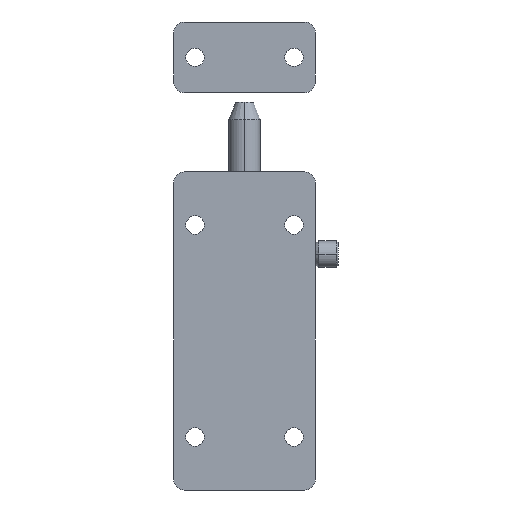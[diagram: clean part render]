
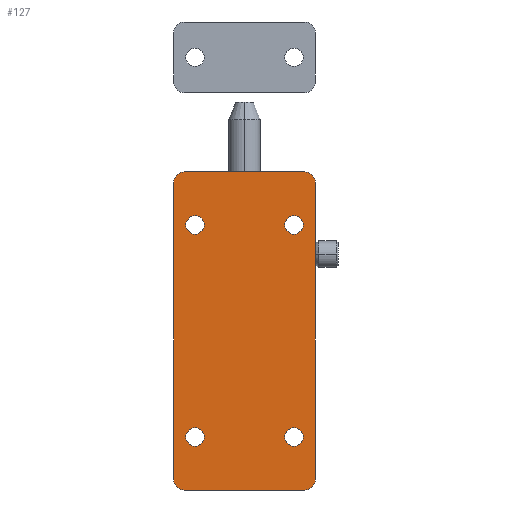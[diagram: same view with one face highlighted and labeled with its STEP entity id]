
A CAD part, front view. The second image highlights one B-rep face of the part: STEP entity #127.
In plain terms, the highlighted planar face has unit normal (0, -1, 0).
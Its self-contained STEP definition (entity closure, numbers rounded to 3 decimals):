
#27 = EDGE_LOOP ( 'NONE', ( #2912, #1894 ) ) ;
#40 = ORIENTED_EDGE ( 'NONE', *, *, #3098, .T. ) ;
#69 = VERTEX_POINT ( 'NONE', #1159 ) ;
#71 = EDGE_CURVE ( 'NONE', #3201, #3212, #1194, .T. ) ;
#87 = ORIENTED_EDGE ( 'NONE', *, *, #71, .T. ) ;
#113 = EDGE_CURVE ( 'NONE', #190, #2528, #1765, .T. ) ;
#114 = EDGE_LOOP ( 'NONE', ( #87, #40 ) ) ;
#127 = ADVANCED_FACE ( 'NONE', ( #1951, #1952, #1953, #1954, #1955 ), #1956, .F. ) ;
#141 = VERTEX_POINT ( 'NONE', #2055 ) ;
#157 = ORIENTED_EDGE ( 'NONE', *, *, #113, .F. ) ;
#171 = VERTEX_POINT ( 'NONE', #2153 ) ;
#174 = EDGE_CURVE ( 'NONE', #141, #3123, #2157, .T. ) ;
#190 = VERTEX_POINT ( 'NONE', #2211 ) ;
#194 = VERTEX_POINT ( 'NONE', #2222 ) ;
#215 = ORIENTED_EDGE ( 'NONE', *, *, #1875, .F. ) ;
#224 = EDGE_CURVE ( 'NONE', #194, #171, #2364, .T. ) ;
#246 = VERTEX_POINT ( 'NONE', #2441 ) ;
#258 = EDGE_CURVE ( 'NONE', #356, #1641, #2480, .T. ) ;
#270 = VERTEX_POINT ( 'NONE', #2514 ) ;
#282 = ORIENTED_EDGE ( 'NONE', *, *, #360, .F. ) ;
#294 = EDGE_CURVE ( 'NONE', #270, #246, #2586, .T. ) ;
#336 = ORIENTED_EDGE ( 'NONE', *, *, #3117, .F. ) ;
#356 = VERTEX_POINT ( 'NONE', #1700 ) ;
#360 = EDGE_CURVE ( 'NONE', #69, #574, #1721, .T. ) ;
#396 = EDGE_LOOP ( 'NONE', ( #336, #282, #215, #157, #3200, #3165, #3136, #3107 ) ) ;
#430 = ORIENTED_EDGE ( 'NONE', *, *, #1176, .T. ) ;
#487 = EDGE_CURVE ( 'NONE', #744, #956, #960, .T. ) ;
#523 = ORIENTED_EDGE ( 'NONE', *, *, #487, .T. ) ;
#574 = VERTEX_POINT ( 'NONE', #1360 ) ;
#579 = EDGE_LOOP ( 'NONE', ( #523, #430 ) ) ;
#610 = ORIENTED_EDGE ( 'NONE', *, *, #224, .T. ) ;
#744 = VERTEX_POINT ( 'NONE', #2018 ) ;
#756 = CIRCLE ( 'NONE', #757, 2.6 ) ;
#757 = AXIS2_PLACEMENT_3D ( 'NONE', #758, #759, #760 ) ;
#758 = CARTESIAN_POINT ( 'NONE',  ( 14., -5.7, 30. ) ) ;
#759 = DIRECTION ( 'NONE',  ( 0., 1., 0. ) ) ;
#760 = DIRECTION ( 'NONE',  ( 0., 0., 1. ) ) ;
#765 = EDGE_CURVE ( 'NONE', #171, #194, #2029, .T. ) ;
#783 = EDGE_CURVE ( 'NONE', #1641, #190, #2036, .T. ) ;
#873 = CIRCLE ( 'NONE', #874, 3. ) ;
#874 = AXIS2_PLACEMENT_3D ( 'NONE', #875, #876, #877 ) ;
#875 = CARTESIAN_POINT ( 'NONE',  ( 17., -5.7, -42. ) ) ;
#876 = DIRECTION ( 'NONE',  ( 0., 1., 0. ) ) ;
#877 = DIRECTION ( 'NONE',  ( 0., 0., 1. ) ) ;
#926 = CARTESIAN_POINT ( 'NONE',  ( -17., -5.7, -45. ) ) ;
#956 = VERTEX_POINT ( 'NONE', #2085 ) ;
#960 = CIRCLE ( 'NONE', #961, 2.6 ) ;
#961 = AXIS2_PLACEMENT_3D ( 'NONE', #962, #963, #964 ) ;
#962 = CARTESIAN_POINT ( 'NONE',  ( -14., -5.7, 30. ) ) ;
#963 = DIRECTION ( 'NONE',  ( 0., 1., 0. ) ) ;
#964 = DIRECTION ( 'NONE',  ( 0., 0., 1. ) ) ;
#1125 = ORIENTED_EDGE ( 'NONE', *, *, #765, .T. ) ;
#1159 = CARTESIAN_POINT ( 'NONE',  ( 20., -5.7, 42. ) ) ;
#1176 = EDGE_CURVE ( 'NONE', #956, #744, #2165, .T. ) ;
#1194 = CIRCLE ( 'NONE', #1195, 2.6 ) ;
#1195 = AXIS2_PLACEMENT_3D ( 'NONE', #1196, #1197, #1198 ) ;
#1196 = CARTESIAN_POINT ( 'NONE',  ( 14., -5.7, 30. ) ) ;
#1197 = DIRECTION ( 'NONE',  ( 0., 1., 0. ) ) ;
#1198 = DIRECTION ( 'NONE',  ( 0., 0., 1. ) ) ;
#1360 = CARTESIAN_POINT ( 'NONE',  ( 20., -5.7, -42. ) ) ;
#1577 = CARTESIAN_POINT ( 'NONE',  ( 17., -5.7, 45. ) ) ;
#1587 = CIRCLE ( 'NONE', #1588, 2.6 ) ;
#1588 = AXIS2_PLACEMENT_3D ( 'NONE', #1589, #1590, #1591 ) ;
#1589 = CARTESIAN_POINT ( 'NONE',  ( 14., -5.7, -30. ) ) ;
#1590 = DIRECTION ( 'NONE',  ( 0., 1., 0. ) ) ;
#1591 = DIRECTION ( 'NONE',  ( 0., 0., 1. ) ) ;
#1624 = EDGE_LOOP ( 'NONE', ( #1125, #610 ) ) ;
#1641 = VERTEX_POINT ( 'NONE', #2408 ) ;
#1700 = CARTESIAN_POINT ( 'NONE',  ( -20., -5.7, -42. ) ) ;
#1721 = LINE ( 'NONE', #1722, #1723 ) ;
#1722 = CARTESIAN_POINT ( 'NONE',  ( 20., -5.7, 0. ) ) ;
#1723 = VECTOR ( 'NONE', #1724, 1000. ) ;
#1724 = DIRECTION ( 'NONE',  ( 0., 0., -1. ) ) ;
#1765 = LINE ( 'NONE', #1766, #1767 ) ;
#1766 = CARTESIAN_POINT ( 'NONE',  ( 0., -5.7, 45. ) ) ;
#1767 = VECTOR ( 'NONE', #1768, 1000. ) ;
#1768 = DIRECTION ( 'NONE',  ( 1., 0., 0. ) ) ;
#1829 = CARTESIAN_POINT ( 'NONE',  ( 14., -5.7, 32.6 ) ) ;
#1851 = CIRCLE ( 'NONE', #1852, 3. ) ;
#1852 = AXIS2_PLACEMENT_3D ( 'NONE', #1853, #1854, #1855 ) ;
#1853 = CARTESIAN_POINT ( 'NONE',  ( -17., -5.7, -42. ) ) ;
#1854 = DIRECTION ( 'NONE',  ( 0., 1., 0. ) ) ;
#1855 = DIRECTION ( 'NONE',  ( 1., 0., 0. ) ) ;
#1875 = EDGE_CURVE ( 'NONE', #2528, #69, #2494, .T. ) ;
#1894 = ORIENTED_EDGE ( 'NONE', *, *, #294, .T. ) ;
#1951 = FACE_BOUND ( 'NONE', #114, .T. ) ;
#1952 = FACE_BOUND ( 'NONE', #27, .T. ) ;
#1953 = FACE_BOUND ( 'NONE', #1624, .T. ) ;
#1954 = FACE_BOUND ( 'NONE', #579, .T. ) ;
#1955 = FACE_OUTER_BOUND ( 'NONE', #396, .T. ) ;
#1956 = PLANE ( 'NONE',  #1957 ) ;
#1957 = AXIS2_PLACEMENT_3D ( 'NONE', #1958, #1959, #1960 ) ;
#1958 = CARTESIAN_POINT ( 'NONE',  ( -20., -5.7, -45. ) ) ;
#1959 = DIRECTION ( 'NONE',  ( 0., 1., 0. ) ) ;
#1960 = DIRECTION ( 'NONE',  ( 0., 0., 1. ) ) ;
#2002 = CARTESIAN_POINT ( 'NONE',  ( 14., -5.7, 27.4 ) ) ;
#2018 = CARTESIAN_POINT ( 'NONE',  ( -14., -5.7, 32.6 ) ) ;
#2029 = CIRCLE ( 'NONE', #2030, 2.6 ) ;
#2030 = AXIS2_PLACEMENT_3D ( 'NONE', #2033, #2034, #2035 ) ;
#2033 = CARTESIAN_POINT ( 'NONE',  ( -14., -5.7, -30. ) ) ;
#2034 = DIRECTION ( 'NONE',  ( 0., 1., 0. ) ) ;
#2035 = DIRECTION ( 'NONE',  ( 0., 0., 1. ) ) ;
#2036 = CIRCLE ( 'NONE', #2037, 3. ) ;
#2037 = AXIS2_PLACEMENT_3D ( 'NONE', #2038, #2039, #2040 ) ;
#2038 = CARTESIAN_POINT ( 'NONE',  ( -17., -5.7, 42. ) ) ;
#2039 = DIRECTION ( 'NONE',  ( 0., 1., 0. ) ) ;
#2040 = DIRECTION ( 'NONE',  ( 0., 0., 1. ) ) ;
#2055 = CARTESIAN_POINT ( 'NONE',  ( 17., -5.7, -45. ) ) ;
#2085 = CARTESIAN_POINT ( 'NONE',  ( -14., -5.7, 27.4 ) ) ;
#2153 = CARTESIAN_POINT ( 'NONE',  ( -14., -5.7, -27.4 ) ) ;
#2157 = LINE ( 'NONE', #2161, #2162 ) ;
#2161 = CARTESIAN_POINT ( 'NONE',  ( 0., -5.7, -45. ) ) ;
#2162 = VECTOR ( 'NONE', #2163, 1000. ) ;
#2163 = DIRECTION ( 'NONE',  ( -1., 0., 0. ) ) ;
#2165 = CIRCLE ( 'NONE', #2166, 2.6 ) ;
#2166 = AXIS2_PLACEMENT_3D ( 'NONE', #2167, #2168, #2169 ) ;
#2167 = CARTESIAN_POINT ( 'NONE',  ( -14., -5.7, 30. ) ) ;
#2168 = DIRECTION ( 'NONE',  ( 0., 1., 0. ) ) ;
#2169 = DIRECTION ( 'NONE',  ( 0., 0., 1. ) ) ;
#2211 = CARTESIAN_POINT ( 'NONE',  ( -17., -5.7, 45. ) ) ;
#2222 = CARTESIAN_POINT ( 'NONE',  ( -14., -5.7, -32.6 ) ) ;
#2364 = CIRCLE ( 'NONE', #2365, 2.6 ) ;
#2365 = AXIS2_PLACEMENT_3D ( 'NONE', #2366, #2367, #2368 ) ;
#2366 = CARTESIAN_POINT ( 'NONE',  ( -14., -5.7, -30. ) ) ;
#2367 = DIRECTION ( 'NONE',  ( 0., 1., 0. ) ) ;
#2368 = DIRECTION ( 'NONE',  ( 0., 0., 1. ) ) ;
#2408 = CARTESIAN_POINT ( 'NONE',  ( -20., -5.7, 42. ) ) ;
#2441 = CARTESIAN_POINT ( 'NONE',  ( 14., -5.7, -27.4 ) ) ;
#2480 = LINE ( 'NONE', #2481, #2482 ) ;
#2481 = CARTESIAN_POINT ( 'NONE',  ( -20., -5.7, 0. ) ) ;
#2482 = VECTOR ( 'NONE', #2483, 1000. ) ;
#2483 = DIRECTION ( 'NONE',  ( 0., 0., 1. ) ) ;
#2494 = CIRCLE ( 'NONE', #2495, 3. ) ;
#2495 = AXIS2_PLACEMENT_3D ( 'NONE', #2496, #2497, #2498 ) ;
#2496 = CARTESIAN_POINT ( 'NONE',  ( 17., -5.7, 42. ) ) ;
#2497 = DIRECTION ( 'NONE',  ( 0., 1., 0. ) ) ;
#2498 = DIRECTION ( 'NONE',  ( 1., 0., 0. ) ) ;
#2514 = CARTESIAN_POINT ( 'NONE',  ( 14., -5.7, -32.6 ) ) ;
#2528 = VERTEX_POINT ( 'NONE', #1577 ) ;
#2546 = EDGE_CURVE ( 'NONE', #246, #270, #1587, .T. ) ;
#2586 = CIRCLE ( 'NONE', #2587, 2.6 ) ;
#2587 = AXIS2_PLACEMENT_3D ( 'NONE', #2589, #2590, #2591 ) ;
#2589 = CARTESIAN_POINT ( 'NONE',  ( 14., -5.7, -30. ) ) ;
#2590 = DIRECTION ( 'NONE',  ( 0., 1., 0. ) ) ;
#2591 = DIRECTION ( 'NONE',  ( 0., 0., 1. ) ) ;
#2820 = EDGE_CURVE ( 'NONE', #3123, #356, #1851, .T. ) ;
#2912 = ORIENTED_EDGE ( 'NONE', *, *, #2546, .T. ) ;
#3098 = EDGE_CURVE ( 'NONE', #3212, #3201, #756, .T. ) ;
#3107 = ORIENTED_EDGE ( 'NONE', *, *, #174, .F. ) ;
#3117 = EDGE_CURVE ( 'NONE', #574, #141, #873, .T. ) ;
#3123 = VERTEX_POINT ( 'NONE', #926 ) ;
#3136 = ORIENTED_EDGE ( 'NONE', *, *, #2820, .F. ) ;
#3165 = ORIENTED_EDGE ( 'NONE', *, *, #258, .F. ) ;
#3200 = ORIENTED_EDGE ( 'NONE', *, *, #783, .F. ) ;
#3201 = VERTEX_POINT ( 'NONE', #1829 ) ;
#3212 = VERTEX_POINT ( 'NONE', #2002 ) ;
